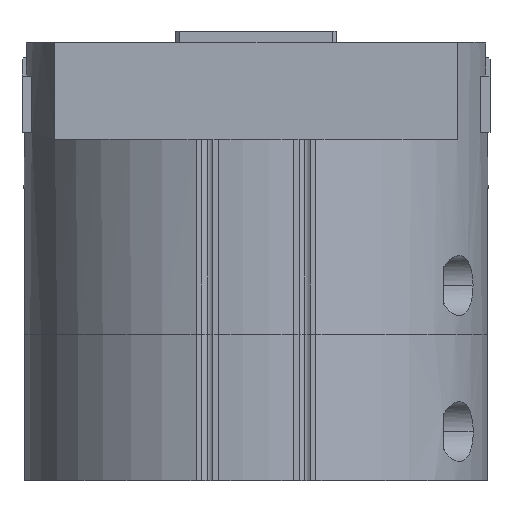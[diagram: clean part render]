
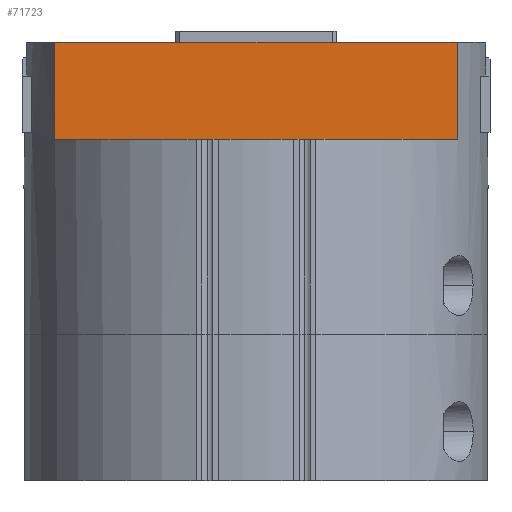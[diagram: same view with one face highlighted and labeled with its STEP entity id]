
A CAD part, top view. The second image highlights one B-rep face of the part: STEP entity #71723.
In plain terms, the highlighted planar face has unit normal (0, 0, 1).
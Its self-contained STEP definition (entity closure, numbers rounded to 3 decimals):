
#3941 = LINE ( 'NONE', #56419, #83755 ) ;
#4359 = ORIENTED_EDGE ( 'NONE', *, *, #99642, .F. ) ;
#7951 = VECTOR ( 'NONE', #49444, 1000. ) ;
#10115 = CARTESIAN_POINT ( 'NONE',  ( 0., 52., 31. ) ) ;
#10405 = LINE ( 'NONE', #10610, #7951 ) ;
#10610 = CARTESIAN_POINT ( 'NONE',  ( 0., 78., 31. ) ) ;
#11362 = CARTESIAN_POINT ( 'NONE',  ( 53.694, 78., 31. ) ) ;
#12340 = LINE ( 'NONE', #10115, #55898 ) ;
#13194 = VERTEX_POINT ( 'NONE', #86620 ) ;
#21833 = EDGE_CURVE ( 'NONE', #30059, #13194, #3941, .T. ) ;
#22041 = EDGE_CURVE ( 'NONE', #94603, #47399, #81364, .T. ) ;
#22054 = VECTOR ( 'NONE', #28284, 1000. ) ;
#28284 = DIRECTION ( 'NONE',  ( 0., -1., 0. ) ) ;
#28300 = CARTESIAN_POINT ( 'NONE',  ( -53.694, 52., 31. ) ) ;
#30059 = VERTEX_POINT ( 'NONE', #72348 ) ;
#36074 = DIRECTION ( 'NONE',  ( 0., 0., -1. ) ) ;
#38260 = FACE_OUTER_BOUND ( 'NONE', #83210, .T. ) ;
#47399 = VERTEX_POINT ( 'NONE', #92742 ) ;
#49444 = DIRECTION ( 'NONE',  ( 1., 0., 0. ) ) ;
#55898 = VECTOR ( 'NONE', #64214, 1000. ) ;
#56419 = CARTESIAN_POINT ( 'NONE',  ( -53.694, 78., 31. ) ) ;
#56633 = EDGE_CURVE ( 'NONE', #13194, #94603, #10405, .T. ) ;
#64214 = DIRECTION ( 'NONE',  ( -1., 0., 0. ) ) ;
#68346 = ORIENTED_EDGE ( 'NONE', *, *, #22041, .F. ) ;
#69761 = AXIS2_PLACEMENT_3D ( 'NONE', #28300, #36074, #90170 ) ;
#71723 = ADVANCED_FACE ( 'NONE', ( #38260 ), #96296, .F. ) ;
#72348 = CARTESIAN_POINT ( 'NONE',  ( -53.694, 52., 31. ) ) ;
#74602 = CARTESIAN_POINT ( 'NONE',  ( 53.694, 78., 31. ) ) ;
#76129 = ORIENTED_EDGE ( 'NONE', *, *, #56633, .F. ) ;
#81364 = LINE ( 'NONE', #74602, #22054 ) ;
#83210 = EDGE_LOOP ( 'NONE', ( #93032, #4359, #68346, #76129 ) ) ;
#83755 = VECTOR ( 'NONE', #94949, 1000. ) ;
#86620 = CARTESIAN_POINT ( 'NONE',  ( -53.694, 78., 31. ) ) ;
#90170 = DIRECTION ( 'NONE',  ( -1., 0., 0. ) ) ;
#92742 = CARTESIAN_POINT ( 'NONE',  ( 53.694, 52., 31. ) ) ;
#93032 = ORIENTED_EDGE ( 'NONE', *, *, #21833, .F. ) ;
#94603 = VERTEX_POINT ( 'NONE', #11362 ) ;
#94949 = DIRECTION ( 'NONE',  ( 0., 1., 0. ) ) ;
#96296 = PLANE ( 'NONE',  #69761 ) ;
#99642 = EDGE_CURVE ( 'NONE', #47399, #30059, #12340, .T. ) ;
